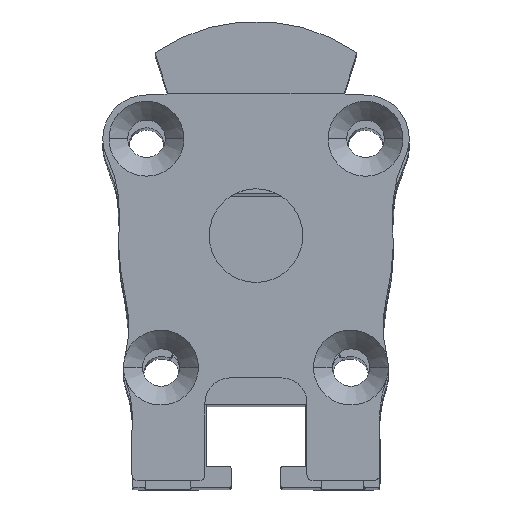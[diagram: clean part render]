
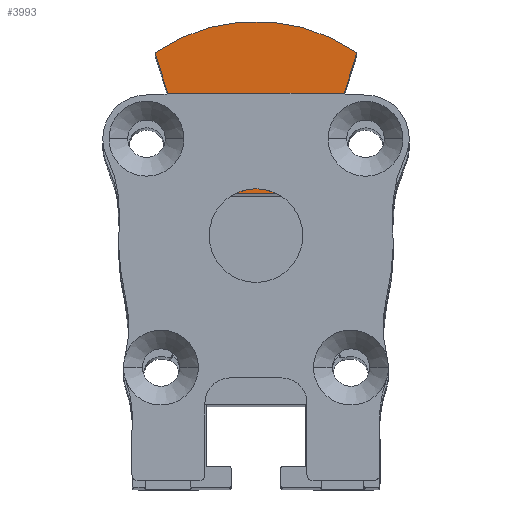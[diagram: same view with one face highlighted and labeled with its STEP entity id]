
A CAD part, top view. The second image highlights one B-rep face of the part: STEP entity #3993.
In plain terms, the highlighted planar face has unit normal (0, 0, 1).
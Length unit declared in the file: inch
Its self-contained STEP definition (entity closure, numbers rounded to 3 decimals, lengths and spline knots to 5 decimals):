
#3993=ADVANCED_FACE('',(#7809),#7810,.T.);
#4001=EDGE_CURVE('',#7813,#7819,#7822,.T.);
#4007=EDGE_CURVE('',#7827,#7819,#7830,.F.);
#4029=EDGE_CURVE('',#7861,#7862,#7863,.F.);
#4035=EDGE_CURVE('',#7869,#7870,#7871,.F.);
#4041=EDGE_CURVE('',#7870,#7861,#7877,.F.);
#4043=EDGE_CURVE('',#7869,#7879,#7880,.F.);
#4047=EDGE_CURVE('',#7813,#7862,#7884,.F.);
#4049=EDGE_CURVE('',#7886,#7887,#7888,.F.);
#4055=EDGE_CURVE('',#7827,#7894,#7895,.F.);
#4059=EDGE_CURVE('',#7894,#7886,#7899,.F.);
#4063=EDGE_CURVE('',#7901,#7887,#7904,.F.);
#4065=EDGE_CURVE('',#7879,#7901,#7906,.F.);
#7809=FACE_OUTER_BOUND('',#17585,.T.);
#7810=PLANE('',#17586);
#7813=VERTEX_POINT('',#17590);
#7819=VERTEX_POINT('',#17600);
#7822=LINE('',#17605,#17606);
#7827=VERTEX_POINT('',#17614);
#7830=LINE('',#17619,#17620);
#7861=VERTEX_POINT('',#17671);
#7862=VERTEX_POINT('',#17672);
#7863=LINE('',#17673,#17674);
#7869=VERTEX_POINT('',#17685);
#7870=VERTEX_POINT('',#17686);
#7871=LINE('',#17687,#17688);
#7877=LINE('',#17699,#17700);
#7879=VERTEX_POINT('',#17703);
#7880=LINE('',#17704,#17705);
#7884=LINE('',#17712,#17713);
#7886=VERTEX_POINT('',#17716);
#7887=VERTEX_POINT('',#17717);
#7888=LINE('',#17718,#17719);
#7894=VERTEX_POINT('',#17730);
#7895=LINE('',#17731,#17732);
#7899=LINE('',#17739,#17740);
#7901=VERTEX_POINT('',#17743);
#7904=LINE('',#17748,#17749);
#7906=CIRCLE('',#17752,0.56299);
#17585=EDGE_LOOP('',(#23294,#23295,#23296,#23297,#23298,#23299,#23300,#23301,#23302,#23303,#23304,#23305));
#17586=AXIS2_PLACEMENT_3D('',#23306,#23307,#23308);
#17590=CARTESIAN_POINT('',(-0.17932,0.15296,-6.73971));
#17600=CARTESIAN_POINT('',(0.17932,0.15296,-6.73971));
#17605=CARTESIAN_POINT('',(0.,0.15296,-6.73971));
#17606=VECTOR('',#23312,1.0);
#17614=CARTESIAN_POINT('',(0.26301,0.4208,-6.73971));
#17619=CARTESIAN_POINT('',(0.19145,0.19179,-6.73971));
#17620=VECTOR('',#23315,1.0);
#17671=CARTESIAN_POINT('',(-0.21005,0.4208,-6.73971));
#17672=CARTESIAN_POINT('',(-0.26301,0.4208,-6.73971));
#17673=CARTESIAN_POINT('',(-0.12298,0.4208,-6.73971));
#17674=VECTOR('',#23328,1.0);
#17685=CARTESIAN_POINT('',(-0.27532,0.46017,-6.73971));
#17686=CARTESIAN_POINT('',(-0.21005,0.46017,-6.73971));
#17687=CARTESIAN_POINT('',(-0.12298,0.46017,-6.73971));
#17688=VECTOR('',#23331,1.0);
#17699=CARTESIAN_POINT('',(-0.21005,0.35333,-6.73971));
#17700=VECTOR('',#23334,1.0);
#17703=CARTESIAN_POINT('',(-0.31832,0.59777,-6.73971));
#17704=CARTESIAN_POINT('',(-0.19145,0.19179,-6.73971));
#17705=VECTOR('',#23335,1.0);
#17712=CARTESIAN_POINT('',(-0.19145,0.19179,-6.73971));
#17713=VECTOR('',#23337,1.0);
#17716=CARTESIAN_POINT('',(0.20856,0.46017,-6.73971));
#17717=CARTESIAN_POINT('',(0.27532,0.46017,-6.73971));
#17718=CARTESIAN_POINT('',(0.12223,0.46017,-6.73971));
#17719=VECTOR('',#23338,1.0);
#17730=CARTESIAN_POINT('',(0.20856,0.4208,-6.73971));
#17731=CARTESIAN_POINT('',(0.12223,0.4208,-6.73971));
#17732=VECTOR('',#23341,1.0);
#17739=CARTESIAN_POINT('',(0.20856,0.35333,-6.73971));
#17740=VECTOR('',#23343,1.0);
#17743=CARTESIAN_POINT('',(0.31832,0.59777,-6.73971));
#17748=CARTESIAN_POINT('',(0.19145,0.19179,-6.73971));
#17749=VECTOR('',#23345,1.0);
#17752=AXIS2_PLACEMENT_3D('',#23346,#23347,#23348);
#23294=ORIENTED_EDGE('',*,*,#4001,.T.);
#23295=ORIENTED_EDGE('',*,*,#4007,.F.);
#23296=ORIENTED_EDGE('',*,*,#4055,.T.);
#23297=ORIENTED_EDGE('',*,*,#4059,.T.);
#23298=ORIENTED_EDGE('',*,*,#4049,.T.);
#23299=ORIENTED_EDGE('',*,*,#4063,.F.);
#23300=ORIENTED_EDGE('',*,*,#4065,.F.);
#23301=ORIENTED_EDGE('',*,*,#4043,.F.);
#23302=ORIENTED_EDGE('',*,*,#4035,.T.);
#23303=ORIENTED_EDGE('',*,*,#4041,.T.);
#23304=ORIENTED_EDGE('',*,*,#4029,.T.);
#23305=ORIENTED_EDGE('',*,*,#4047,.F.);
#23306=CARTESIAN_POINT('',(0.,0.26619,-6.73971));
#23307=DIRECTION('',(0.,0.,1.0));
#23308=DIRECTION('',(1.0,0.0,0.));
#23312=DIRECTION('',(1.0,0.0,0.));
#23315=DIRECTION('',(0.298,0.954,0.));
#23328=DIRECTION('',(1.0,0.0,0.));
#23331=DIRECTION('',(-1.0,0.0,0.));
#23334=DIRECTION('',(-0.0,1.0,0.));
#23335=DIRECTION('',(0.298,-0.954,0.));
#23337=DIRECTION('',(0.298,-0.954,0.));
#23338=DIRECTION('',(-1.0,0.0,0.));
#23341=DIRECTION('',(1.0,0.0,0.));
#23343=DIRECTION('',(-0.0,-1.0,0.));
#23345=DIRECTION('',(0.298,0.954,0.));
#23346=CARTESIAN_POINT('',(0.,0.13341,-6.73971));
#23347=DIRECTION('',(0.,0.,1.0));
#23348=DIRECTION('',(1.0,0.,0.));
